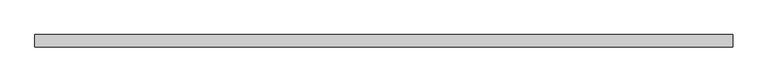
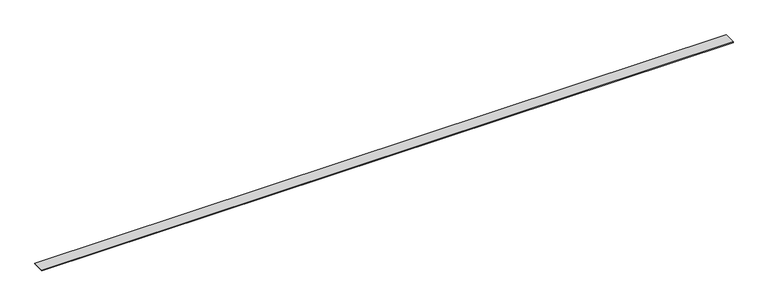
"""IFC4 building model written with IfcOpenShell, lengths in millimetres: duct fitting geometry, DLP Сепаратор внутренний : DLP Сепаратор внутренний."""

from ifc_helpers import new_model, si_unit, frame, origin, place, context, project, spatial, polyline, outline, extrude, source, transform, mapped, element, save


def duct_fitting_7a984635(model_context):
    return source(origin(), model_context, "Body", "SweptSolid", [
        extrude(outline(polyline([(-1000.0, -17.5), (-1000.0, 17.5), (1000.0, 17.5), (1000.0, -17.5), (-1000.0, -17.5)])), frame((0.0, 0.0, -1.0), z_axis=(0.0, 0.0, 1.0), x_axis=(1.0, 0.0, 0.0)), (0.0, 0.0, 1.0), 2.0),
    ])


if __name__ == "__main__":
    model = new_model("IFC4")
    model_context = context("Model", 3, world=origin())
    ifc_project = project(units=[si_unit("LENGTHUNIT", "METRE", prefix="MILLI")], contexts=[model_context])
    site = spatial("IfcSite", under=ifc_project)
    building = spatial("IfcBuilding", under=site)
    placement = place(None, origin())
    duct_fitting_shape = duct_fitting_7a984635(model_context)
    element("IfcDuctFitting", 1, ObjectType="DLP Сепаратор внутренний : DLP Сепаратор внутренний", at=placement, inside=building, context=model_context, shape_type="MappedRepresentation", body=[
        mapped(duct_fitting_shape, transform((0.0, 0.0, 0.0), x_axis=(1.0, 0.0, 0.0), y_axis=(0.0, 1.0, 0.0), z_axis=(0.0, 0.0, 1.0))),
    ])
    save(model, "model.ifc")
